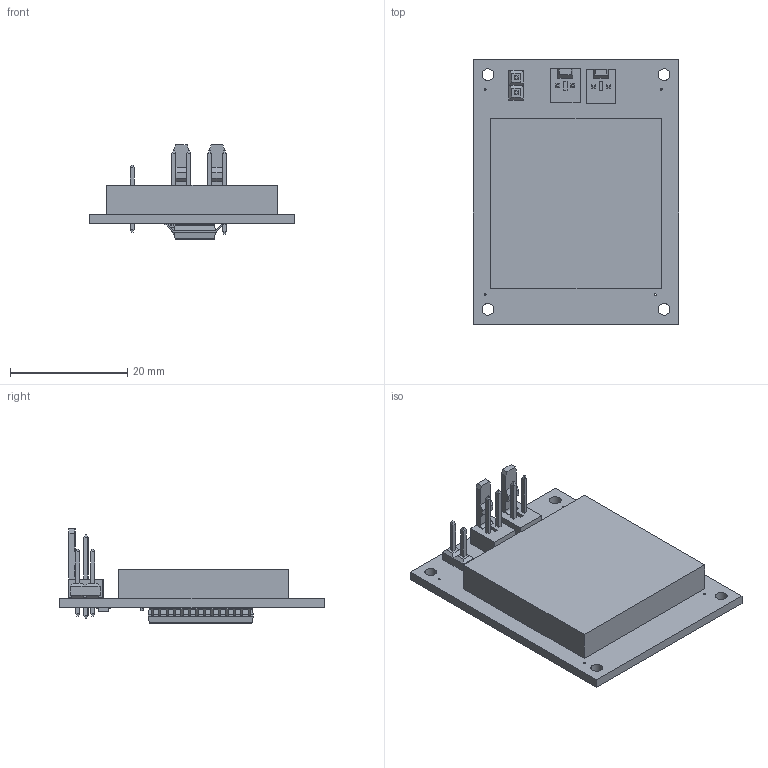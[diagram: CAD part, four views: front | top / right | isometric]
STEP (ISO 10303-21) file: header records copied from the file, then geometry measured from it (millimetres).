
FILE_DESCRIPTION(/* description */ (''),/* implementation_level */ '2;1');
FILE_NAME(/* name */ 'C:/Users/priba/Documents/Temp/Export/mrm-8x8 v1.step',/* time_stamp */ '2019-09-09T12:17:38+02:00',/* author */ (''),/* organization */ (''),/* preprocessor_version */ 'ST-DEVELOPER v18',/* originating_system */ 'Autodesk Translation Framework v8.6.0.1094',/* authorisation */ '');
FILE_SCHEMA (('AUTOMOTIVE_DESIGN { 1 0 10303 214 3 1 1 }'));
Length unit declared in the file: millimetre
Products named in the file (16): mrm-8x8; PCB Component; Board; HOLTEK_HT16K33-28SOP; Body; PinsArrayLR; MOLEX_22-27-2021; 1X02; LED_8X8_BICOLOR; TOSHIBA_SSM3J338R,LFSOT23; TI_ESD321DPYR; term1; term2; body_1; FIDUCIAL1X2; 100 nF
Assembly tree (21 placements, depth 4):
  mrm-8x8
    PCB Component
      Board
      HOLTEK_HT16K33-28SOP
        Body
        PinsArrayLR
      MOLEX_22-27-2021  x2
      1X02
      LED_8X8_BICOLOR
      TOSHIBA_SSM3J338R,LFSOT23
      TI_ESD321DPYR
        term1
        term2
        body_1
      FIDUCIAL1X2  x6
      100 nF
Bounding box: 35 x 45 x 16.06 mm (x, y, z)
Volume: 7220.2 mm3; surface area: 6926.8 mm2
Topology: 39 solids, 39 shells, 761 faces, 1914 edges, 1237 vertices
Faces by surface type: plane 552, cylinder 201, sphere 8
Full cylindrical faces by diameter (mm): 0.3 x1, 0.35 x42, 0.6 x24, 0.882 x1, 1.016 x2, 1.11 x4, 2 x4
Entity records: 21740 total; most frequent: DIRECTION 3622, CARTESIAN_POINT 3613, ORIENTED_EDGE 3490, EDGE_CURVE 1745, LINE 1334, VECTOR 1334, AXIS2_PLACEMENT_3D 1144, VERTEX_POINT 1135
